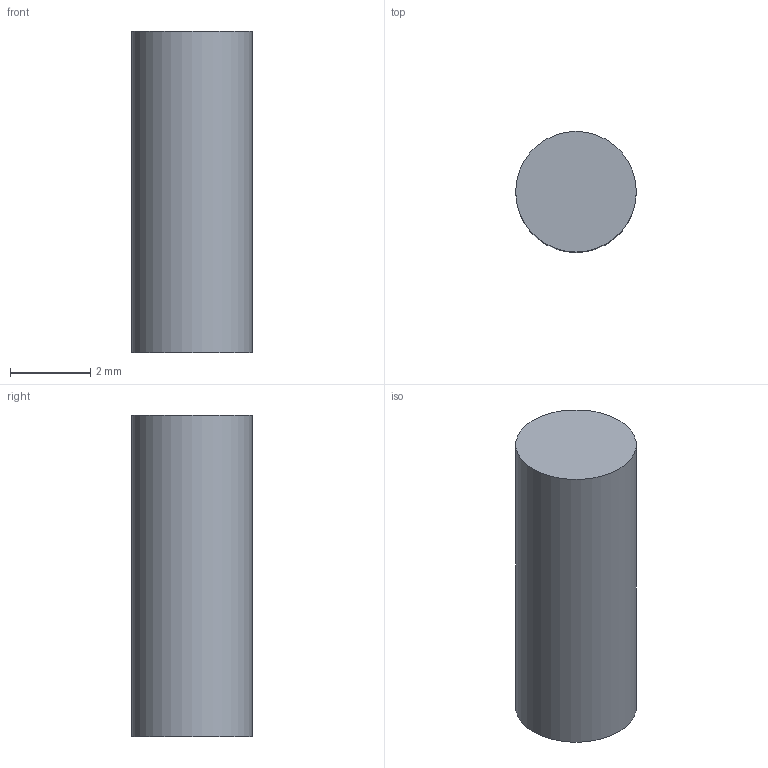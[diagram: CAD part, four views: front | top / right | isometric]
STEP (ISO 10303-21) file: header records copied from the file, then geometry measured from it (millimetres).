
FILE_DESCRIPTION(('Open CASCADE Model'),'2;1');
FILE_NAME('Open CASCADE Shape Model','2026-10-06T03:35:42',('Author'),( 'Open CASCADE'),'Open CASCADE STEP processor 7.8','Open CASCADE 7.8' ,'Unknown');
FILE_SCHEMA(('AUTOMOTIVE_DESIGN { 1 0 10303 214 1 1 1 1 }'));
Length unit declared in the file: millimetre
Products named in the file (1): Open CASCADE STEP translator 7.8 56
Bounding box: 3 x 3 x 8 mm (x, y, z)
Volume: 56.5 mm3; surface area: 89.5 mm2
Topology: 1 solids, 1 shells, 3 faces, 3 edges, 2 vertices
Faces by surface type: plane 2, cylinder 1
Full cylindrical faces by diameter (mm): 3 x1
Entity records: 108 total; most frequent: DIRECTION 19, CARTESIAN_POINT 15, AXIS2_PLACEMENT_3D 6, ORIENTED_EDGE 6, PCURVE 6, DEFINITIONAL_REPRESENTATION 6, LINE 5, VECTOR 5
